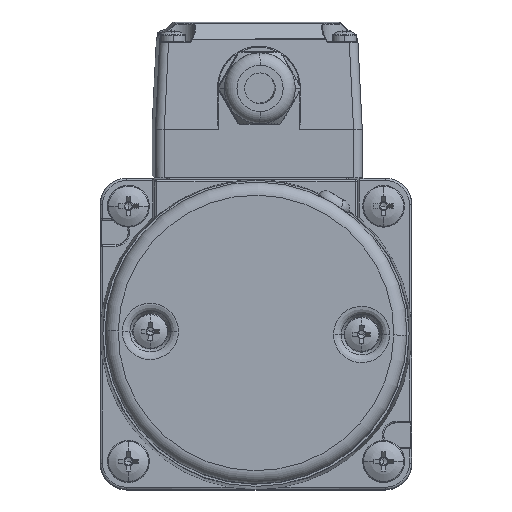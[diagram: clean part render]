
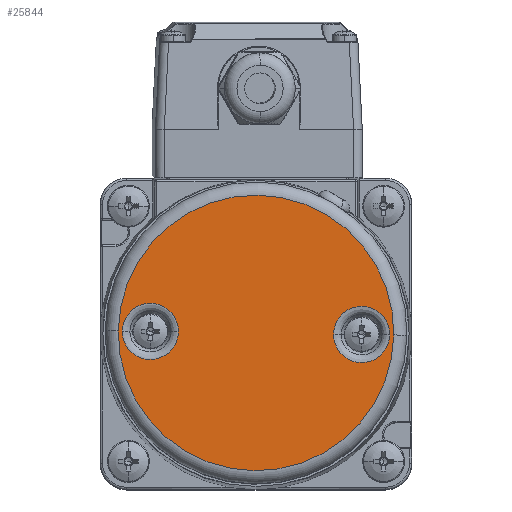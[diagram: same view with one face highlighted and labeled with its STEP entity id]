
A CAD part, top view. The second image highlights one B-rep face of the part: STEP entity #25844.
In plain terms, the highlighted planar face has unit normal (0, 0, 1) as drawn and (0, 1, 0) by its records, which use the part's own axes.
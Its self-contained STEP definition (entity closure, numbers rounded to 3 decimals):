
#1709 = ORIENTED_EDGE ( 'NONE', *, *, #34241, .F. ) ;
#1865 = CARTESIAN_POINT ( 'NONE',  ( 0., 119.5, 0. ) ) ;
#2094 = FACE_BOUND ( 'NONE', #2240, .T. ) ;
#2240 = EDGE_LOOP ( 'NONE', ( #1709, #17928 ) ) ;
#2651 = CARTESIAN_POINT ( 'NONE',  ( 0., 119.5, 30.387 ) ) ;
#3019 = VERTEX_POINT ( 'NONE', #18687 ) ;
#3990 = ORIENTED_EDGE ( 'NONE', *, *, #22375, .F. ) ;
#5785 = EDGE_LOOP ( 'NONE', ( #3990, #46119 ) ) ;
#5892 = DIRECTION ( 'NONE',  ( 0., 1., 0. ) ) ;
#6405 = CIRCLE ( 'NONE', #30625, 6.387 ) ;
#6506 = ORIENTED_EDGE ( 'NONE', *, *, #6635, .F. ) ;
#6635 = EDGE_CURVE ( 'NONE', #24948, #27091, #6405, .T. ) ;
#6849 = DIRECTION ( 'NONE',  ( 0., 1., 0. ) ) ;
#6931 = VERTEX_POINT ( 'NONE', #9516 ) ;
#7575 = EDGE_CURVE ( 'NONE', #6931, #3019, #37461, .T. ) ;
#9516 = CARTESIAN_POINT ( 'NONE',  ( -0.004, 119.5, -31.3 ) ) ;
#12274 = DIRECTION ( 'NONE',  ( 0.008, 0., -1. ) ) ;
#12417 = AXIS2_PLACEMENT_3D ( 'NONE', #1865, #34336, #45252 ) ;
#13684 = CARTESIAN_POINT ( 'NONE',  ( 0., 119.5, 24. ) ) ;
#16042 = AXIS2_PLACEMENT_3D ( 'NONE', #13684, #5892, #34797 ) ;
#16147 = CIRCLE ( 'NONE', #38113, 6.387 ) ;
#17189 = CARTESIAN_POINT ( 'NONE',  ( 0., 119.5, -30.387 ) ) ;
#17205 = EDGE_CURVE ( 'NONE', #27091, #24948, #24376, .T. ) ;
#17928 = ORIENTED_EDGE ( 'NONE', *, *, #43413, .F. ) ;
#18687 = CARTESIAN_POINT ( 'NONE',  ( 0.004, 119.5, 31.3 ) ) ;
#19443 = DIRECTION ( 'NONE',  ( 0.068, 0., 0.998 ) ) ;
#19992 = CARTESIAN_POINT ( 'NONE',  ( 0., 119.5, 17.613 ) ) ;
#20451 = CIRCLE ( 'NONE', #32588, 31.3 ) ;
#20511 = VERTEX_POINT ( 'NONE', #38199 ) ;
#22375 = EDGE_CURVE ( 'NONE', #6931, #3019, #20451, .T. ) ;
#22594 = EDGE_LOOP ( 'NONE', ( #6506, #43169 ) ) ;
#23211 = FACE_OUTER_BOUND ( 'NONE', #5785, .T. ) ;
#24376 = CIRCLE ( 'NONE', #16042, 6.387 ) ;
#24948 = VERTEX_POINT ( 'NONE', #19992 ) ;
#25844 = ADVANCED_FACE ( 'NONE', ( #23211, #37638, #2094 ), #34092, .T. ) ;
#25896 = DIRECTION ( 'NONE',  ( 0., 1., 0. ) ) ;
#26483 = DIRECTION ( 'NONE',  ( -0.008, 0., 1. ) ) ;
#27091 = VERTEX_POINT ( 'NONE', #2651 ) ;
#28910 = CARTESIAN_POINT ( 'NONE',  ( 0., 119.5, -24. ) ) ;
#29584 = CARTESIAN_POINT ( 'NONE',  ( 0., 119.5, 0. ) ) ;
#30077 = DIRECTION ( 'NONE',  ( 0., -1., 0. ) ) ;
#30625 = AXIS2_PLACEMENT_3D ( 'NONE', #32541, #25896, #40598 ) ;
#30836 = DIRECTION ( 'NONE',  ( 0., 1., 0. ) ) ;
#32237 = DIRECTION ( 'NONE',  ( -0.068, 0., -0.998 ) ) ;
#32541 = CARTESIAN_POINT ( 'NONE',  ( 0., 119.5, 24. ) ) ;
#32588 = AXIS2_PLACEMENT_3D ( 'NONE', #40984, #30077, #12274 ) ;
#33016 = CIRCLE ( 'NONE', #39055, 6.387 ) ;
#34092 = PLANE ( 'NONE',  #12417 ) ;
#34241 = EDGE_CURVE ( 'NONE', #44410, #20511, #16147, .T. ) ;
#34336 = DIRECTION ( 'NONE',  ( 0., 1., 0. ) ) ;
#34374 = CARTESIAN_POINT ( 'NONE',  ( 0., 119.5, -24. ) ) ;
#34797 = DIRECTION ( 'NONE',  ( 0.097, 0., 0.995 ) ) ;
#37461 = CIRCLE ( 'NONE', #42074, 31.3 ) ;
#37638 = FACE_BOUND ( 'NONE', #22594, .T. ) ;
#38113 = AXIS2_PLACEMENT_3D ( 'NONE', #28910, #6849, #32237 ) ;
#38199 = CARTESIAN_POINT ( 'NONE',  ( 0., 119.5, -17.613 ) ) ;
#39055 = AXIS2_PLACEMENT_3D ( 'NONE', #34374, #30836, #19443 ) ;
#40598 = DIRECTION ( 'NONE',  ( -0.097, 0., -0.995 ) ) ;
#40984 = CARTESIAN_POINT ( 'NONE',  ( 0., 119.5, 0. ) ) ;
#42074 = AXIS2_PLACEMENT_3D ( 'NONE', #29584, #44031, #26483 ) ;
#43169 = ORIENTED_EDGE ( 'NONE', *, *, #17205, .F. ) ;
#43413 = EDGE_CURVE ( 'NONE', #20511, #44410, #33016, .T. ) ;
#44031 = DIRECTION ( 'NONE',  ( 0., 1., 0. ) ) ;
#44410 = VERTEX_POINT ( 'NONE', #17189 ) ;
#45252 = DIRECTION ( 'NONE',  ( 1., 0., 0. ) ) ;
#46119 = ORIENTED_EDGE ( 'NONE', *, *, #7575, .T. ) ;
